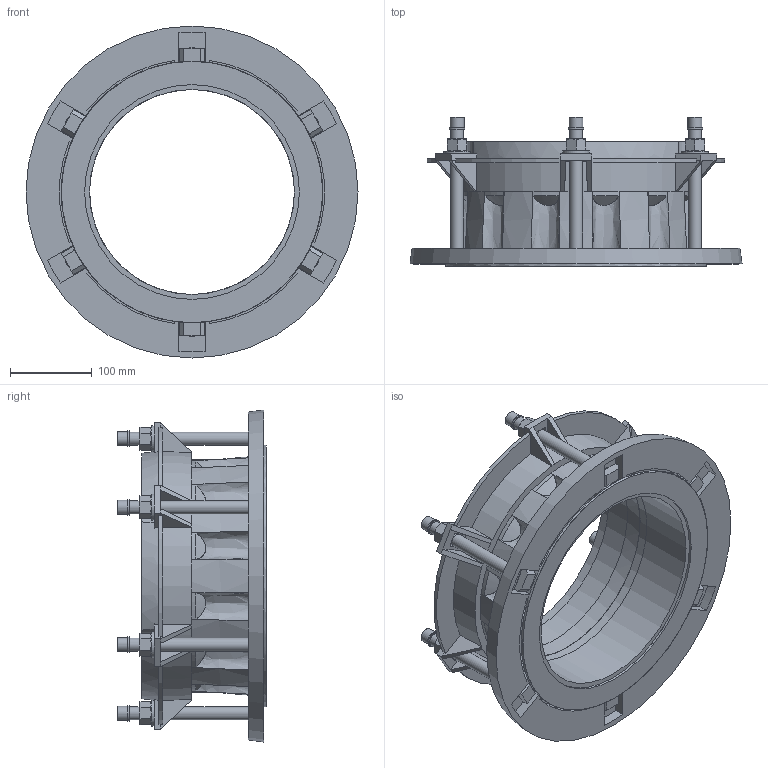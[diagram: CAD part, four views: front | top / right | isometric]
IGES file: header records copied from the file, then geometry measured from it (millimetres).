
Start section: SolidWorks IGES file using analytic representation for surfaces
Global section: file name: \\avksan2\techshare\PBM outline export from Enovia\O_623_10_DN200-250mm_X2XXXXX_REV01.igs; native system: SolidWorks 2019; preprocessor: SolidWorks 2019; author: pbm; date: 200417.110524; units: millimetre
Bounding box: 405 x 181.5 x 405 mm (x, y, z)
Surface area: 663297.9 mm2 (no closed solid volume)
Topology: 0 solids, 0 shells, 620 faces, 3166 edges, 3098 vertices
Faces by surface type: bspline 334, revolution 286
